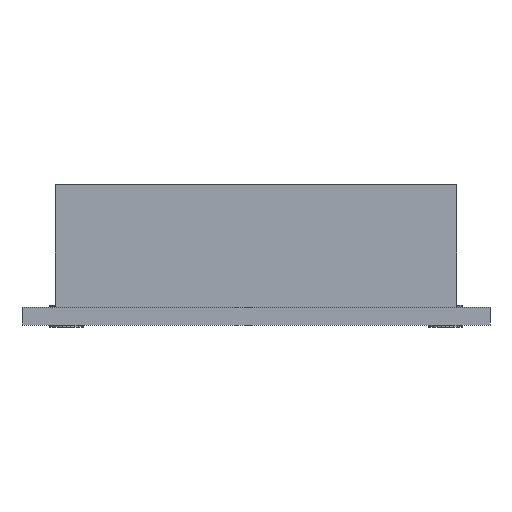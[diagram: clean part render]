
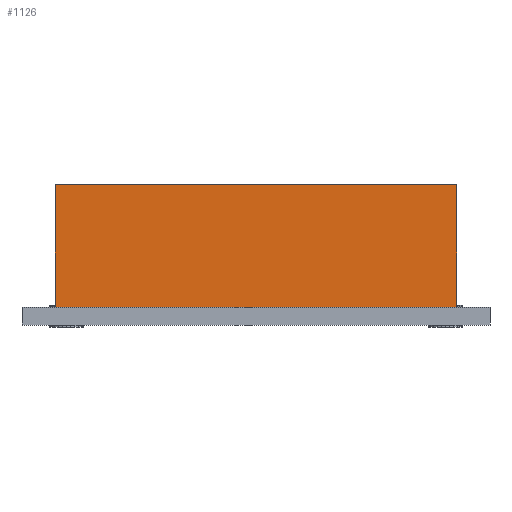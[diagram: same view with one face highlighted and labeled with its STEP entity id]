
A CAD part, front view. The second image highlights one B-rep face of the part: STEP entity #1126.
In plain terms, the highlighted planar face has unit normal (0, -1, 0).
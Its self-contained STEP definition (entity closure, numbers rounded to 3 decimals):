
#24 = VERTEX_POINT('',#25);
#25 = CARTESIAN_POINT('',(3.,2.,1.6));
#32 = PLANE('',#33);
#33 = AXIS2_PLACEMENT_3D('',#34,#35,#36);
#34 = CARTESIAN_POINT('',(3.,2.491,1.656));
#35 = DIRECTION('',(-1.,-0.,-0.));
#36 = DIRECTION('',(0.,0.,-1.));
#44 = PLANE('',#45);
#45 = AXIS2_PLACEMENT_3D('',#46,#47,#48);
#46 = CARTESIAN_POINT('',(2.984,2.477,1.6));
#47 = DIRECTION('',(0.,0.,1.));
#48 = DIRECTION('',(1.,0.,-0.));
#56 = EDGE_CURVE('',#24,#57,#59,.T.);
#57 = VERTEX_POINT('',#58);
#58 = CARTESIAN_POINT('',(3.,2.,12.6));
#59 = SURFACE_CURVE('',#60,(#64,#71),.PCURVE_S1.);
#60 = LINE('',#61,#62);
#61 = CARTESIAN_POINT('',(3.,2.,1.6));
#62 = VECTOR('',#63,1.);
#63 = DIRECTION('',(0.,0.,1.));
#64 = PCURVE('',#32,#65);
#65 = DEFINITIONAL_REPRESENTATION('',(#66),#70);
#66 = LINE('',#67,#68);
#67 = CARTESIAN_POINT('',(0.056,0.491));
#68 = VECTOR('',#69,1.);
#69 = DIRECTION('',(-1.,0.));
#70 = ( GEOMETRIC_REPRESENTATION_CONTEXT(2) 
PARAMETRIC_REPRESENTATION_CONTEXT() REPRESENTATION_CONTEXT('2D SPACE',''
  ) );
#71 = PCURVE('',#72,#77);
#72 = PLANE('',#73);
#73 = AXIS2_PLACEMENT_3D('',#74,#75,#76);
#74 = CARTESIAN_POINT('',(18.661,2.,9.439));
#75 = DIRECTION('',(-0.,-1.,-0.));
#76 = DIRECTION('',(0.,0.,-1.));
#77 = DEFINITIONAL_REPRESENTATION('',(#78),#82);
#78 = LINE('',#79,#80);
#79 = CARTESIAN_POINT('',(7.839,-15.661));
#80 = VECTOR('',#81,1.);
#81 = DIRECTION('',(-1.,0.));
#82 = ( GEOMETRIC_REPRESENTATION_CONTEXT(2) 
PARAMETRIC_REPRESENTATION_CONTEXT() REPRESENTATION_CONTEXT('2D SPACE',''
  ) );
#100 = PLANE('',#101);
#101 = AXIS2_PLACEMENT_3D('',#102,#103,#104);
#102 = CARTESIAN_POINT('',(22.78,7.78,12.6));
#103 = DIRECTION('',(0.,0.,1.));
#104 = DIRECTION('',(1.,0.,-0.));
#249 = VERTEX_POINT('',#250);
#250 = CARTESIAN_POINT('',(39.,2.,12.6));
#266 = PLANE('',#267);
#267 = AXIS2_PLACEMENT_3D('',#268,#269,#270);
#268 = CARTESIAN_POINT('',(39.,7.35,8.45));
#269 = DIRECTION('',(1.,0.,0.));
#270 = DIRECTION('',(-0.,0.,1.));
#300 = EDGE_CURVE('',#57,#249,#301,.T.);
#301 = SURFACE_CURVE('',#302,(#306,#313),.PCURVE_S1.);
#302 = LINE('',#303,#304);
#303 = CARTESIAN_POINT('',(3.,2.,12.6));
#304 = VECTOR('',#305,1.);
#305 = DIRECTION('',(1.,0.,0.));
#306 = PCURVE('',#100,#307);
#307 = DEFINITIONAL_REPRESENTATION('',(#308),#312);
#308 = LINE('',#309,#310);
#309 = CARTESIAN_POINT('',(-19.78,-5.78));
#310 = VECTOR('',#311,1.);
#311 = DIRECTION('',(1.,0.));
#312 = ( GEOMETRIC_REPRESENTATION_CONTEXT(2) 
PARAMETRIC_REPRESENTATION_CONTEXT() REPRESENTATION_CONTEXT('2D SPACE',''
  ) );
#313 = PCURVE('',#72,#314);
#314 = DEFINITIONAL_REPRESENTATION('',(#315),#319);
#315 = LINE('',#316,#317);
#316 = CARTESIAN_POINT('',(-3.161,-15.661));
#317 = VECTOR('',#318,1.);
#318 = DIRECTION('',(0.,1.));
#319 = ( GEOMETRIC_REPRESENTATION_CONTEXT(2) 
PARAMETRIC_REPRESENTATION_CONTEXT() REPRESENTATION_CONTEXT('2D SPACE',''
  ) );
#348 = EDGE_CURVE('',#249,#349,#351,.T.);
#349 = VERTEX_POINT('',#350);
#350 = CARTESIAN_POINT('',(39.,2.,1.6));
#351 = SURFACE_CURVE('',#352,(#356,#363),.PCURVE_S1.);
#352 = LINE('',#353,#354);
#353 = CARTESIAN_POINT('',(39.,2.,12.6));
#354 = VECTOR('',#355,1.);
#355 = DIRECTION('',(0.,0.,-1.));
#356 = PCURVE('',#266,#357);
#357 = DEFINITIONAL_REPRESENTATION('',(#358),#362);
#358 = LINE('',#359,#360);
#359 = CARTESIAN_POINT('',(4.15,5.35));
#360 = VECTOR('',#361,1.);
#361 = DIRECTION('',(-1.,0.));
#362 = ( GEOMETRIC_REPRESENTATION_CONTEXT(2) 
PARAMETRIC_REPRESENTATION_CONTEXT() REPRESENTATION_CONTEXT('2D SPACE',''
  ) );
#363 = PCURVE('',#72,#364);
#364 = DEFINITIONAL_REPRESENTATION('',(#365),#369);
#365 = LINE('',#366,#367);
#366 = CARTESIAN_POINT('',(-3.161,20.339));
#367 = VECTOR('',#368,1.);
#368 = DIRECTION('',(1.,0.));
#369 = ( GEOMETRIC_REPRESENTATION_CONTEXT(2) 
PARAMETRIC_REPRESENTATION_CONTEXT() REPRESENTATION_CONTEXT('2D SPACE',''
  ) );
#630 = EDGE_CURVE('',#24,#349,#631,.T.);
#631 = SURFACE_CURVE('',#632,(#636,#643),.PCURVE_S1.);
#632 = LINE('',#633,#634);
#633 = CARTESIAN_POINT('',(3.,2.,1.6));
#634 = VECTOR('',#635,1.);
#635 = DIRECTION('',(1.,0.,0.));
#636 = PCURVE('',#44,#637);
#637 = DEFINITIONAL_REPRESENTATION('',(#638),#642);
#638 = LINE('',#639,#640);
#639 = CARTESIAN_POINT('',(0.016,-0.477));
#640 = VECTOR('',#641,1.);
#641 = DIRECTION('',(1.,0.));
#642 = ( GEOMETRIC_REPRESENTATION_CONTEXT(2) 
PARAMETRIC_REPRESENTATION_CONTEXT() REPRESENTATION_CONTEXT('2D SPACE',''
  ) );
#643 = PCURVE('',#72,#644);
#644 = DEFINITIONAL_REPRESENTATION('',(#645),#649);
#645 = LINE('',#646,#647);
#646 = CARTESIAN_POINT('',(7.839,-15.661));
#647 = VECTOR('',#648,1.);
#648 = DIRECTION('',(0.,1.));
#649 = ( GEOMETRIC_REPRESENTATION_CONTEXT(2) 
PARAMETRIC_REPRESENTATION_CONTEXT() REPRESENTATION_CONTEXT('2D SPACE',''
  ) );
#1126 = ADVANCED_FACE('',(#1127),#72,.T.);
#1127 = FACE_BOUND('',#1128,.T.);
#1128 = EDGE_LOOP('',(#1129,#1130,#1131,#1132));
#1129 = ORIENTED_EDGE('',*,*,#300,.F.);
#1130 = ORIENTED_EDGE('',*,*,#56,.F.);
#1131 = ORIENTED_EDGE('',*,*,#630,.T.);
#1132 = ORIENTED_EDGE('',*,*,#348,.F.);
